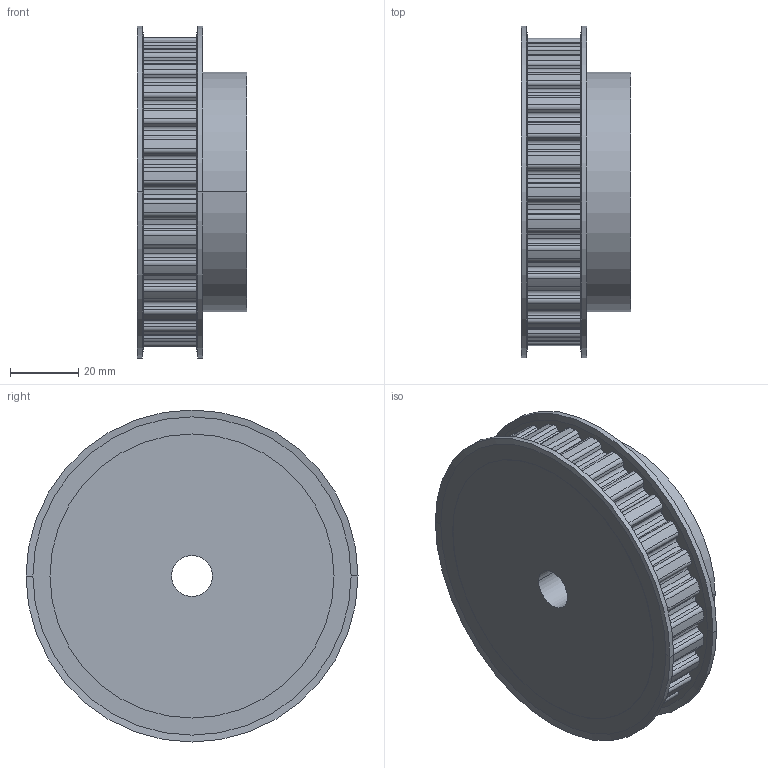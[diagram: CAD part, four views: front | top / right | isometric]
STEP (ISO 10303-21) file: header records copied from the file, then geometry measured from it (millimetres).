
FILE_DESCRIPTION( ( '' ), '1' );
FILE_NAME( 'C:/Users/Stangenbergd/Documents/CAD_Step/1/18213000.stp', '2021-10-19T10:35:38', ( '' ), ( '' ), ' ', ' ', ' ' );
FILE_SCHEMA( ( 'CONFIG_CONTROL_DESIGN' ) );
Length unit declared in the file: millimetre
Products named in the file (1): 1
Bounding box: 32.13 x 97 x 97 mm (x, y, z)
Volume: 165503.4 mm3; surface area: 28003.5 mm2
Topology: 1 solids, 1 shells, 267 faces, 772 edges, 512 vertices
Faces by surface type: cylinder 162, plane 97, cone 8
Entity records: 8962 total; most frequent: DIRECTION 1640, CARTESIAN_POINT 1552, ORIENTED_EDGE 1544, EDGE_CURVE 772, AXIS2_PLACEMENT_3D 600, VERTEX_POINT 512, LINE 440, VECTOR 440
